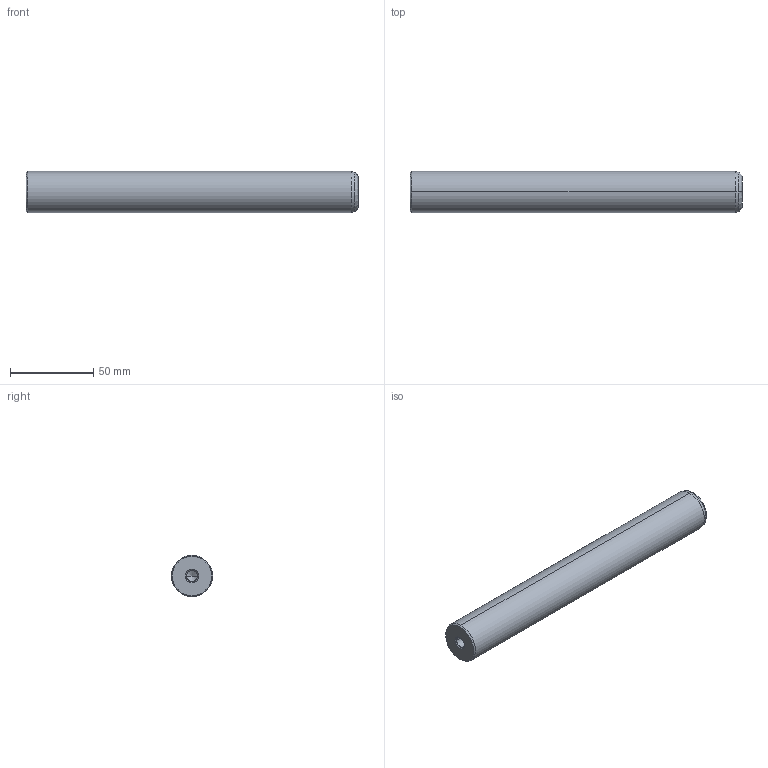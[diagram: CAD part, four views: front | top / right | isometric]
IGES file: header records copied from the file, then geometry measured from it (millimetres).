
Start section: START RECORD GO HERE.
Global section: file name: 720-25x200.igs; native system: DASSAULT SYSTEMES CATIA V5 R20 - www.3ds.com; preprocessor: CATIA Version 5 Release 20 ; author: Utente; organization: NB04-ASUS; date: 20210101.134156; units: millimetre
Bounding box: 200 x 25 x 25 mm (x, y, z)
Surface area: 17518.6 mm2 (no closed solid volume)
Topology: 0 solids, 0 shells, 22 faces, 108 edges, 104 vertices
Faces by surface type: revolution 20, plane 2
